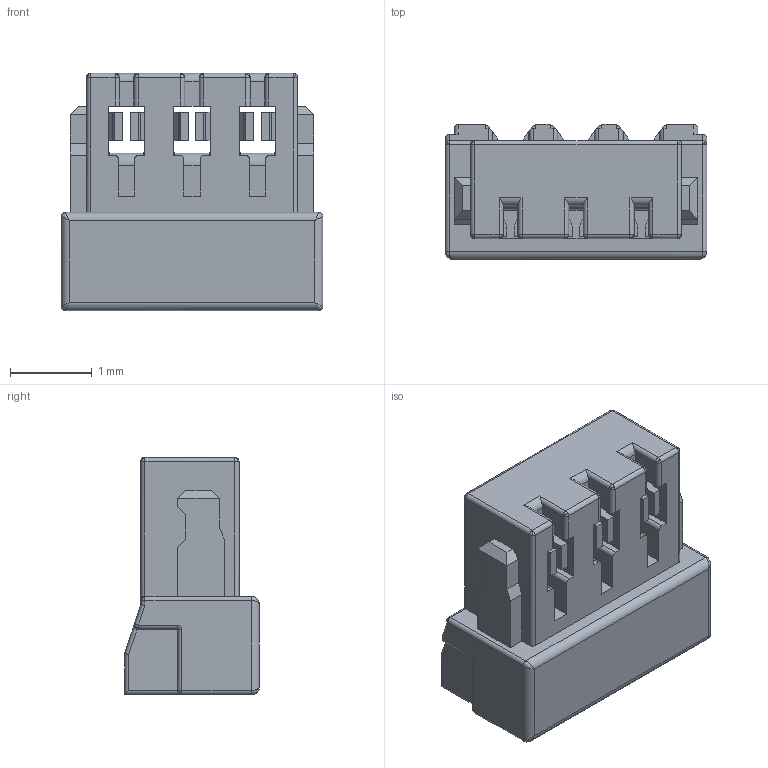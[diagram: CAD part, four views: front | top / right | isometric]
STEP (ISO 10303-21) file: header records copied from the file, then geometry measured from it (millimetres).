
FILE_DESCRIPTION((''),'2;1');
FILE_NAME('SCT0800HI-03','2023-03-26T10:06:02',('Administrator'),(''),'CREO PARAMETRIC BY PTC INC, 2018050','CREO PARAMETRIC BY PTC INC, 2018050','');
FILE_SCHEMA(('CONFIG_CONTROL_DESIGN'));
Length unit declared in the file: millimetre
Products named in the file (1): SCT0800HI-03
Bounding box: 3.2 x 1.65 x 2.9 mm (x, y, z)
Volume: 8.1 mm3; surface area: 59.5 mm2
Topology: 1 solids, 1 shells, 610 faces, 1737 edges, 1075 vertices
Faces by surface type: plane 389, cylinder 183, sphere 32, bspline 5, torus 1
Entity records: 19860 total; most frequent: CARTESIAN_POINT 3958, ORIENTED_EDGE 3426, DIRECTION 3224, EDGE_CURVE 1713, VECTOR 1316, LINE 1316, VERTEX_POINT 1075, AXIS2_PLACEMENT_3D 954
